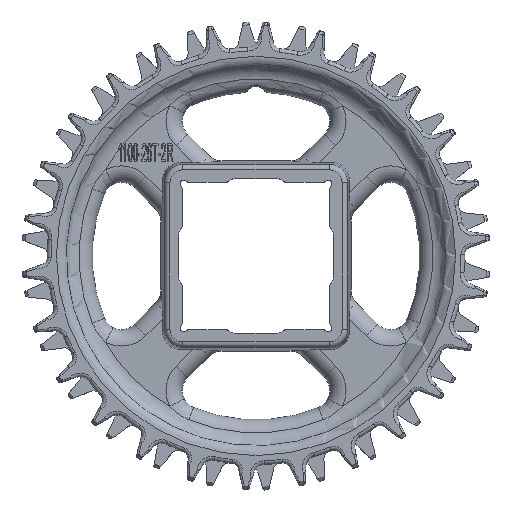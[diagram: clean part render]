
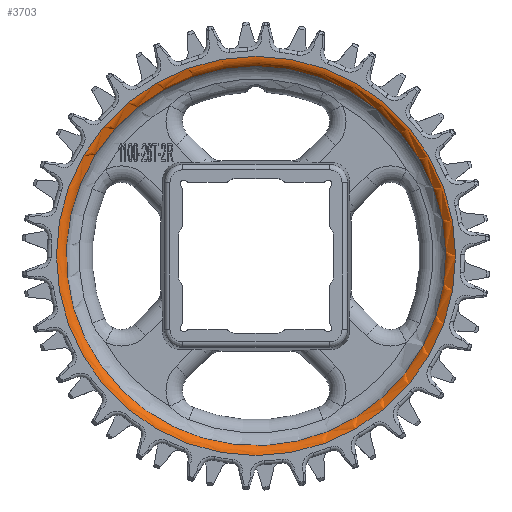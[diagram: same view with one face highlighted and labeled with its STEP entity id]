
A CAD part, top view. The second image highlights one B-rep face of the part: STEP entity #3703.
In plain terms, the highlighted toroidal (fillet/blend) face has major radius 54.719 mm and minor radius 3 mm.
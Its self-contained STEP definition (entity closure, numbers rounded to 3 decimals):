
#784=TOROIDAL_SURFACE('',#25398,54.719,3.);
#1515=FACE_BOUND('',#6714,.T.);
#1516=FACE_BOUND('',#6715,.T.);
#3703=ADVANCED_FACE('',(#1515,#1516),#784,.T.);
#6714=EDGE_LOOP('',(#15015));
#6715=EDGE_LOOP('',(#15016));
#15015=ORIENTED_EDGE('',*,*,#21230,.F.);
#15016=ORIENTED_EDGE('',*,*,#21295,.F.);
#17964=VERTEX_POINT('',#46638);
#18013=VERTEX_POINT('',#46783);
#21230=EDGE_CURVE('',#17964,#17964,#22882,.T.);
#21295=EDGE_CURVE('',#18013,#18013,#22898,.T.);
#22882=CIRCLE('',#25356,54.719);
#22898=CIRCLE('',#25392,52.021);
#25356=AXIS2_PLACEMENT_3D('',#46637,#31324,#31325);
#25392=AXIS2_PLACEMENT_3D('',#46782,#31424,#31425);
#25398=AXIS2_PLACEMENT_3D('',#46876,#31436,#31437);
#31324=DIRECTION('',(0.,0.,-1.));
#31325=DIRECTION('',(0.,1.,0.));
#31424=DIRECTION('',(0.,0.,1.));
#31425=DIRECTION('',(0.,1.,0.));
#31436=DIRECTION('',(0.,0.,1.));
#31437=DIRECTION('',(0.,1.,0.));
#46637=CARTESIAN_POINT('',(0.,0.,9.5));
#46638=CARTESIAN_POINT('',(0.,54.719,9.5));
#46782=CARTESIAN_POINT('',(0.,0.,7.813));
#46783=CARTESIAN_POINT('',(0.,52.021,7.813));
#46876=CARTESIAN_POINT('',(0.,0.,6.5));
